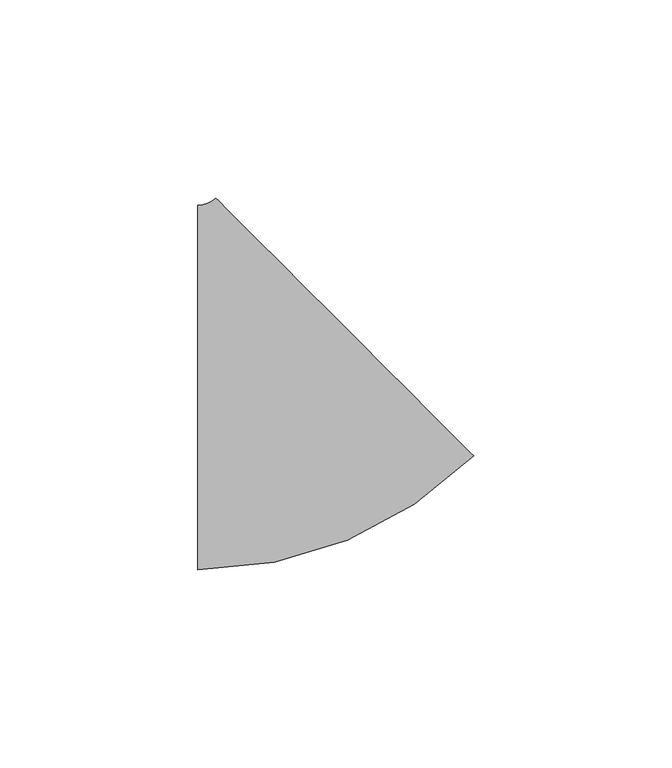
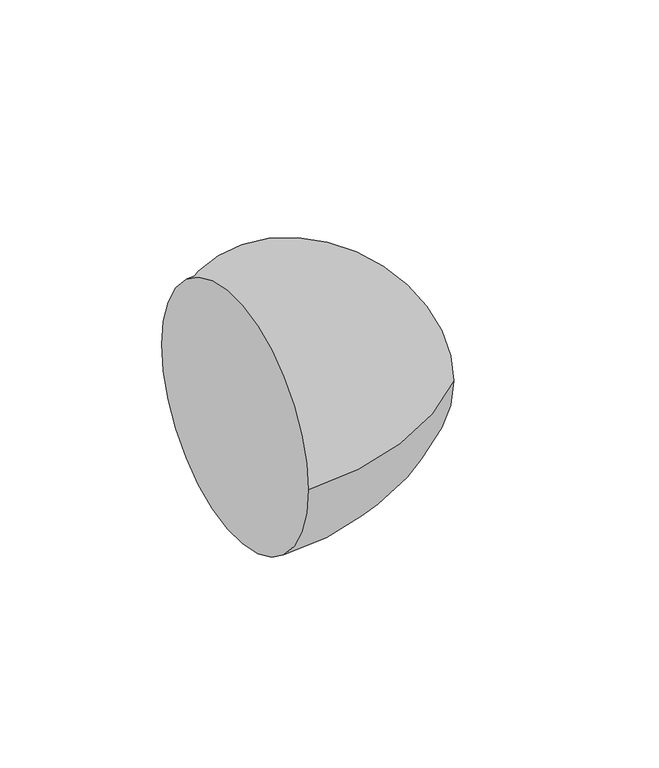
"""IFC4 building model written with IfcOpenShell, lengths in millimetres: pipe fitting geometry, M_Codo - Genérico : Estándar."""

from ifc_helpers import new_model, si_unit, point, frame, origin, place, context, project, spatial, circle_curve, ellipse_curve, trimmed, source, transform, mapped, element, save
from ifc_brep_helpers import plane_surface, revolved_surface, advanced_brep


def pipe_fitting_0c9cd777(model_context):
    return source(origin(), model_context, "Body", "AdvancedBrep", [
        advanced_brep(
        [(-21.6944768, -46.0375, 0.0), (-21.6944768, 46.0375, 0.0), (47.8908584, -17.2211326, 0.0), (-17.2051004, 47.8966205, 0.0)],
        [
            (0, 1, circle_curve(frame((-21.6944768, 0.0, 0.0), z_axis=(-1.0, 0.0, 0.0), x_axis=(0.0, 1.0, 0.0)), 46.0375)),
            (1, 0, circle_curve(frame((-21.6944768, 0.0, 0.0), z_axis=(-1.0, 0.0, 0.0), x_axis=(0.0, 1.0, 0.0)), 46.0375)),
            (2, 3, circle_curve(frame((15.342879, 15.3377439, 0.0), z_axis=(0.7072251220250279, 0.7069884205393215, 0.0), x_axis=(-0.7069884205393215, 0.7072251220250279, 0.0)), 46.0375)),
            (3, 2, circle_curve(frame((15.342879, 15.3377439, 0.0), z_axis=(0.7072251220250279, 0.7069884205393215, 0.0), x_axis=(-0.7069884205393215, 0.7072251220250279, 0.0)), 46.0375)),
            (3, 1, circle_curve(frame((-21.6944768, 52.3875, 0.0), z_axis=(0.0, 0.0, -1.0), x_axis=(0.0, -1.0, 0.0)), 6.35)),
            (0, 2, circle_curve(frame((-21.6944768, 52.3875, 0.0), z_axis=(0.0, 0.0, 1.0), x_axis=(0.0, -1.0, 0.0)), 98.425)),
        ],
        [
            plane_surface(frame((-21.6944768, 0.0, 0.0), z_axis=(-1.0, 0.0, 0.0), x_axis=(0.0, 0.0, 1.0))),
            plane_surface(frame((15.342879, 15.3377439, 0.0), z_axis=(0.7072251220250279, 0.7069884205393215, 0.0), x_axis=(0.0, 0.0, 1.0))),
            revolved_surface(trimmed(ellipse_curve(frame((-21.6944768, 0.0, 0.0), z_axis=(-1.0, 0.0, 0.0), x_axis=(0.0, 1.0, 0.0)), 46.0375, 46.0375), [point((-21.6944768, -46.0375, 0.0))], [point((-21.6944768, 46.0375, 0.0))], True, "CARTESIAN"), (-21.6944768, 52.3875, 0.0), (0.0, 0.0, 1.0)),
            revolved_surface(trimmed(ellipse_curve(frame((-21.6944768, 0.0, 0.0), z_axis=(-1.0, 0.0, 0.0), x_axis=(0.0, 1.0, 0.0)), 46.0375, 46.0375), [point((-21.6944768, 46.0375, 0.0))], [point((-21.6944768, -46.0375, 0.0))], True, "CARTESIAN"), (-21.6944768, 52.3875, 0.0), (0.0, 0.0, 1.0)),
        ],
        [
            (0, [[1, 2]]),
            (1, [[3, 4]]),
            (2, [[5, -1, 6, -4]]),
            (3, [[-6, -2, -5, -3]]),
        ],
    ),
    ])


if __name__ == "__main__":
    model = new_model("IFC4")
    model_context = context("Model", 3, world=origin())
    ifc_project = project(units=[si_unit("LENGTHUNIT", "METRE", prefix="MILLI")], contexts=[model_context])
    site = spatial("IfcSite", under=ifc_project)
    building = spatial("IfcBuilding", under=site)
    placement = place(None, origin())
    pipe_fitting_shape = pipe_fitting_0c9cd777(model_context)
    element("IfcPipeFitting", 1, ObjectType="M_Codo - Genérico : Estándar", at=placement, inside=building, context=model_context, shape_type="MappedRepresentation", body=[
        mapped(pipe_fitting_shape, transform((0.0, 0.0, 0.0), x_axis=(1.0, 0.0, 0.0), y_axis=(0.0, 1.0, 0.0), z_axis=(0.0, 0.0, 1.0))),
    ])
    save(model, "model.ifc")
